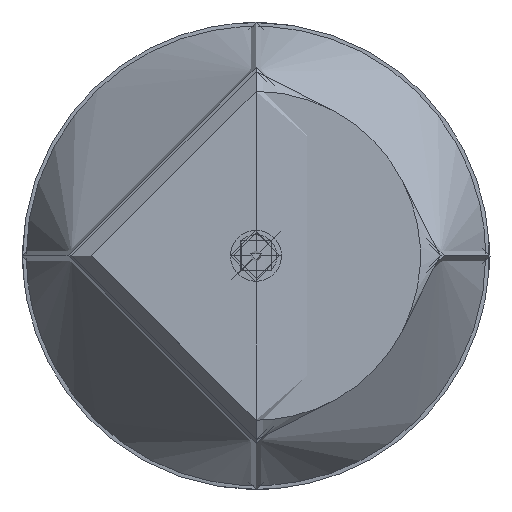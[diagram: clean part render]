
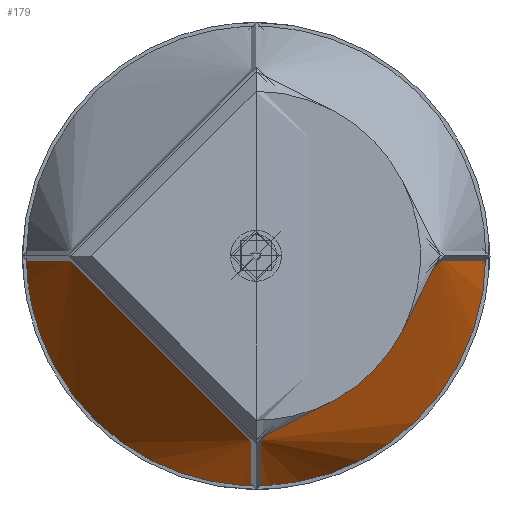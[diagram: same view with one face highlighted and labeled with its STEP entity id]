
A CAD part, top view. The second image highlights one B-rep face of the part: STEP entity #179.
In plain terms, the highlighted free-form (B-spline) face has degree [1, 2] with [2, 5] control points.
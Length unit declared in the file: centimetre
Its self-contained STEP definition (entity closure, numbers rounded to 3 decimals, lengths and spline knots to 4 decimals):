
#179=ADVANCED_FACE('',(#306),#1840,.T.);
#306=FACE_OUTER_BOUND('',#464,.T.);
#464=EDGE_LOOP('',(#985,#986,#987,#988,#989));
#985=ORIENTED_EDGE('',*,*,#1336,.T.);
#986=ORIENTED_EDGE('',*,*,#1309,.T.);
#987=ORIENTED_EDGE('',*,*,#1306,.T.);
#988=ORIENTED_EDGE('',*,*,#1305,.T.);
#989=ORIENTED_EDGE('',*,*,#1335,.F.);
#1305=EDGE_CURVE('',#1795,#1792,#1512,.T.);
#1306=EDGE_CURVE('',#1794,#1795,#1622,.T.);
#1309=EDGE_CURVE('',#1797,#1794,#1515,.T.);
#1335=EDGE_CURVE('',#1814,#1792,#1627,.T.);
#1336=EDGE_CURVE('',#1814,#1797,#1537,.T.);
#1512=(
BOUNDED_CURVE()
B_SPLINE_CURVE(2,(#4424,#4425,#4426,#4427,#4428),.UNSPECIFIED.,.F.,.F.)
B_SPLINE_CURVE_WITH_KNOTS((3,2,3),(0.,169.6212,339.2423),
 .UNSPECIFIED.)
CURVE()
GEOMETRIC_REPRESENTATION_ITEM()
RATIONAL_B_SPLINE_CURVE((1.,0.707,1.,0.707,1.))
REPRESENTATION_ITEM('')
);
#1515=(
BOUNDED_CURVE()
B_SPLINE_CURVE(2,(#4439,#4440,#4441),.UNSPECIFIED.,.F.,.F.)
B_SPLINE_CURVE_WITH_KNOTS((3,3),(-543.6012,-407.7009),
 .UNSPECIFIED.)
CURVE()
GEOMETRIC_REPRESENTATION_ITEM()
RATIONAL_B_SPLINE_CURVE((1.,0.707,1.))
REPRESENTATION_ITEM('')
);
#1537=(
BOUNDED_CURVE()
B_SPLINE_CURVE(2,(#4535,#4536,#4537),.UNSPECIFIED.,.F.,.F.)
B_SPLINE_CURVE_WITH_KNOTS((3,3),(-135.9003,0.),.UNSPECIFIED.)
CURVE()
GEOMETRIC_REPRESENTATION_ITEM()
RATIONAL_B_SPLINE_CURVE((1.,0.707,1.))
REPRESENTATION_ITEM('')
);
#1622=B_SPLINE_CURVE_WITH_KNOTS('',1,(#4429,#4430),.UNSPECIFIED.,.F.,.F.,
(2,2),(0.,56.097),.UNSPECIFIED.);
#1627=B_SPLINE_CURVE_WITH_KNOTS('',1,(#4533,#4534),.UNSPECIFIED.,.F.,.F.,
(2,2),(0.,56.097),.UNSPECIFIED.);
#1792=VERTEX_POINT('',#4326);
#1794=VERTEX_POINT('',#4328);
#1795=VERTEX_POINT('',#4329);
#1797=VERTEX_POINT('',#4331);
#1814=VERTEX_POINT('',#4348);
#1840=(
BOUNDED_SURFACE()
B_SPLINE_SURFACE(1,2,((#4023,#4024,#4025,#4026,#4027),(#4028,#4029,#4030,
#4031,#4032)),.UNSPECIFIED.,.F.,.F.,.F.)
B_SPLINE_SURFACE_WITH_KNOTS((2,2),(3,2,3),(0.,56.097),(0.,169.6212,
339.2423),.UNSPECIFIED.)
GEOMETRIC_REPRESENTATION_ITEM()
RATIONAL_B_SPLINE_SURFACE(((1.,0.707,1.,0.707,1.),
(1.,0.707,1.,0.707,1.)))
REPRESENTATION_ITEM('')
SURFACE()
);
#4023=CARTESIAN_POINT('',(1244.4717,964.7614,-78.9119));
#4024=CARTESIAN_POINT('',(1244.4717,878.2446,-78.9119));
#4025=CARTESIAN_POINT('',(1157.9549,878.2446,-78.9119));
#4026=CARTESIAN_POINT('',(1071.4381,878.2446,-78.9119));
#4027=CARTESIAN_POINT('',(1071.4381,964.7614,-78.9119));
#4028=CARTESIAN_POINT('',(1265.9391,964.7614,-130.7387));
#4029=CARTESIAN_POINT('',(1265.9391,856.7772,-130.7387));
#4030=CARTESIAN_POINT('',(1157.9549,856.7772,-130.7387));
#4031=CARTESIAN_POINT('',(1049.9707,856.7772,-130.7387));
#4032=CARTESIAN_POINT('',(1049.9707,964.7614,-130.7387));
#4326=CARTESIAN_POINT('',(1049.9707,964.7614,-130.7387));
#4328=CARTESIAN_POINT('',(1244.4717,964.7614,-78.9119));
#4329=CARTESIAN_POINT('',(1265.9391,964.7614,-130.7387));
#4331=CARTESIAN_POINT('',(1157.9549,878.2446,-78.9119));
#4348=CARTESIAN_POINT('',(1071.4381,964.7614,-78.9119));
#4424=CARTESIAN_POINT('',(1265.9391,964.7614,-130.7387));
#4425=CARTESIAN_POINT('',(1265.9391,856.7772,-130.7387));
#4426=CARTESIAN_POINT('',(1157.9549,856.7772,-130.7387));
#4427=CARTESIAN_POINT('',(1049.9707,856.7772,-130.7387));
#4428=CARTESIAN_POINT('',(1049.9707,964.7614,-130.7387));
#4429=CARTESIAN_POINT('',(1244.4717,964.7614,-78.9119));
#4430=CARTESIAN_POINT('',(1265.9391,964.7614,-130.7387));
#4439=CARTESIAN_POINT('',(1157.9549,878.2446,-78.9119));
#4440=CARTESIAN_POINT('',(1244.4717,878.2446,-78.9119));
#4441=CARTESIAN_POINT('',(1244.4717,964.7614,-78.9119));
#4533=CARTESIAN_POINT('',(1071.4381,964.7614,-78.9119));
#4534=CARTESIAN_POINT('',(1049.9707,964.7614,-130.7387));
#4535=CARTESIAN_POINT('',(1071.4381,964.7614,-78.9119));
#4536=CARTESIAN_POINT('',(1071.4381,878.2446,-78.9119));
#4537=CARTESIAN_POINT('',(1157.9549,878.2446,-78.9119));
